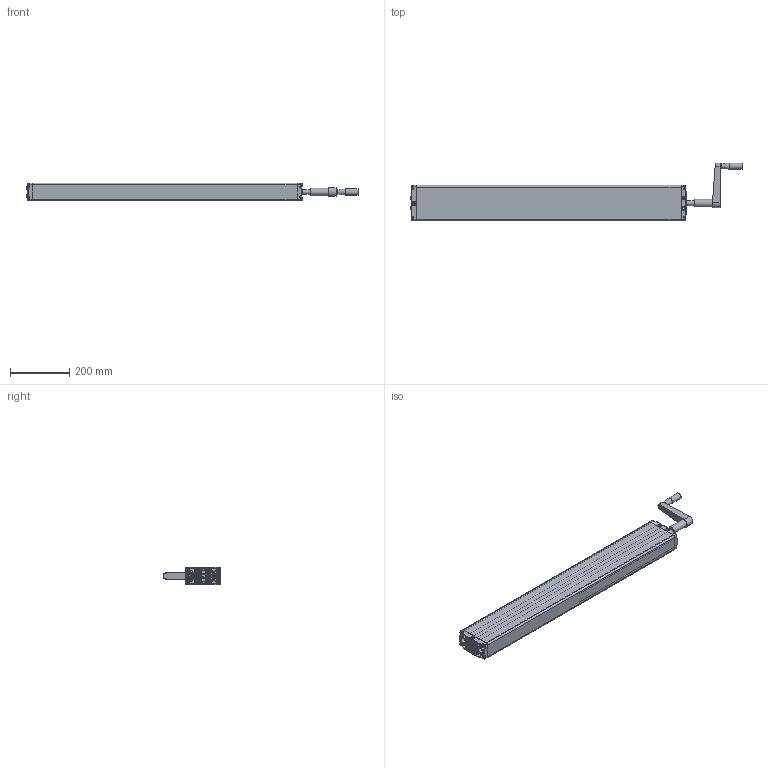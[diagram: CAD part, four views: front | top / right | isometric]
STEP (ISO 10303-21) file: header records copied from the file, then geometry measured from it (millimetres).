
FILE_DESCRIPTION(/* description */ ('Unknown'),/* implementation_level */ '2;1');
FILE_NAME(/* name */ '312.00158 Pumpe PB 4440 W mit Handkurbel',/* time_stamp */ '2016-09-02T11:23:42+02:00',/* author */ ('Unknown'),/* organization */ ('Unknown'),/* preprocessor_version */ 'ST-DEVELOPER v16.7',/* originating_system */ 'DEX',/* authorisation */ $);
FILE_SCHEMA (('AUTOMOTIVE_DESIGN {1 0 10303 214 3 1 1}'));
Products named in the file (21): 102.00157; 115.00027; 125.00044; 115.00007; 142.00021; 125.00021; 113.00005; 128.00001; 125.00052; 126.00013; 125.00053; 127.00014; Handgriff; 142.00013; 125.00147; 115.00140; 126.00006; 122.00040; 119.00047; 126.00005; 142.00057
Assembly tree (30 placements, depth 3):
  102.00157
    115.00027  x4
      125.00044
      115.00007
      142.00021
      125.00021
    113.00005
      128.00001
      125.00052
      126.00013
      125.00053
      127.00014
      Handgriff
    142.00013  x8
    125.00147
    115.00140
      126.00006
      122.00040
    119.00047
    126.00005
    142.00057
Bounding box: 1120.22 x 195.5 x 60.3 mm (x, y, z)
Volume: 1226158.5 mm3; surface area: 810730.2 mm2
Topology: 32 solids, 32 shells, 2579 faces, 6103 edges, 3518 vertices
Faces by surface type: plane 711, bspline 707, cylinder 575, cone 356, torus 172, sphere 58
Full cylindrical faces by diameter (mm): 3.5 x4, 4 x2, 4.1 x4, 4.2 x5, 4.917 x2, 5 x8, 6.917 x8, 8 x10, 9.8 x8, 10 x4, 10.4 x5, 12.8 x1, 13 x1, 13.9 x8, 14 x1, 16 x2, 17 x1, 17.3 x4, 18 x1, 19 x1, 20.6 x1, 21 x1, 22 x1, 25.5 x1
Entity records: 101204 total; most frequent: CARTESIAN_POINT 55693, ORIENTED_EDGE 8526, DIRECTION 6935, EDGE_CURVE 4263, AXIS2_PLACEMENT_3D 2788, VERTEX_POINT 2625, FACE_BOUND 2108, EDGE_LOOP 2105
